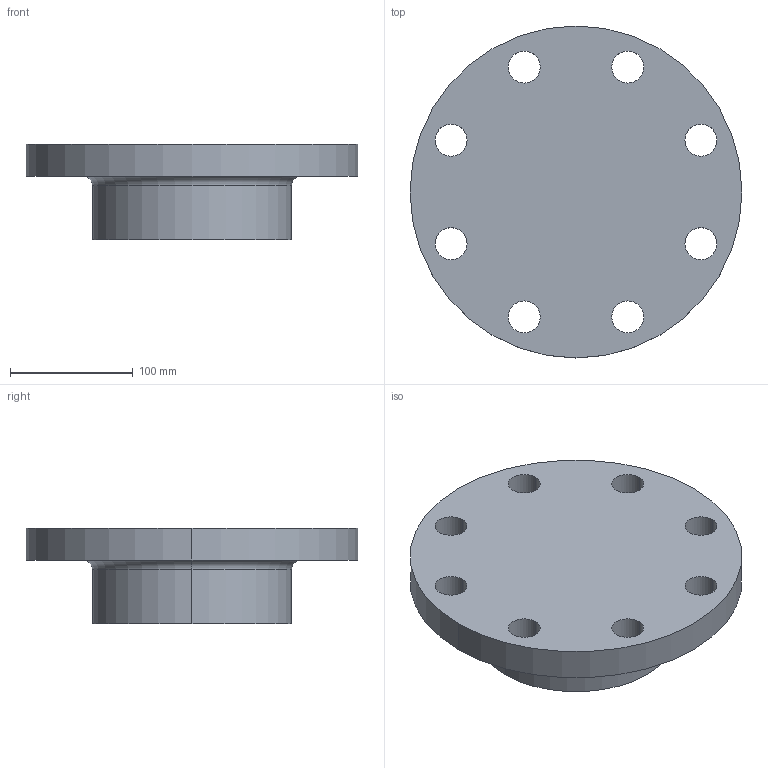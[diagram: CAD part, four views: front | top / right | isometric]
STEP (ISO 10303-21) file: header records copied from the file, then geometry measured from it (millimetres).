
FILE_DESCRIPTION (( 'STEP AP214' ), '1' );
FILE_NAME ('PN40 DN125 Type 21(i) - Type A Face.STEP', '2019-01-02T01:23:26', ( '' ), ( '' ), 'SwSTEP 2.0', 'SolidWorks 2019', '' );
FILE_SCHEMA (( 'AUTOMOTIVE_DESIGN' ));
Length unit declared in the file: millimetre
Products named in the file (1): PN40 DN125 Type 21(i) - Type A Face
Bounding box: 270 x 270 x 78 mm (x, y, z)
Volume: 2457178.1 mm3; surface area: 169805.6 mm2
Topology: 1 solids, 1 shells, 25 faces, 64 edges, 42 vertices
Faces by surface type: cylinder 20, plane 3, torus 2
Entity records: 852 total; most frequent: DIRECTION 160, CARTESIAN_POINT 132, ORIENTED_EDGE 128, AXIS2_PLACEMENT_3D 70, EDGE_CURVE 64, CIRCLE 44, VERTEX_POINT 42, EDGE_LOOP 42
